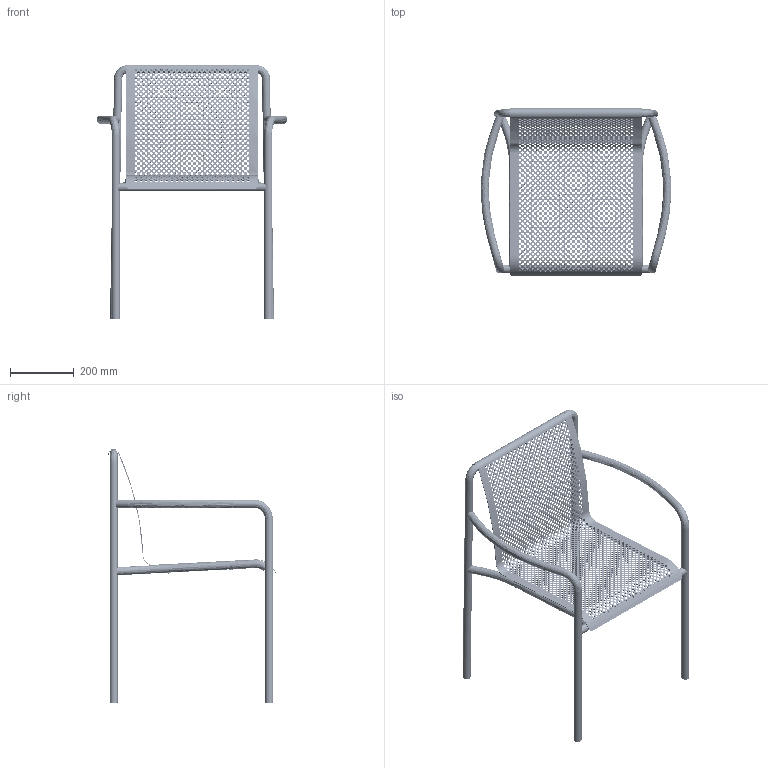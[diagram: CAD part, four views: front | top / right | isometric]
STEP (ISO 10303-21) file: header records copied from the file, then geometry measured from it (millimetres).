
FILE_DESCRIPTION(/* description */ (''),/* implementation_level */ '2;1');
FILE_NAME(/* name */ '241014_Dapple chair w armrests',/* time_stamp */ '2024-10-15T13:17:31+02:00',/* author */ (''),/* organization */ (''),/* preprocessor_version */ 'ST-DEVELOPER v19.2',/* originating_system */ 'Rhino 8.12',/* authorisation */ '');
FILE_SCHEMA (('CONFIG_CONTROL_DESIGN'));
Length unit declared in the file: millimetre
Products named in the file (1): Document
Bounding box: 599 x 528.68 x 800.31 mm (x, y, z)
Volume: 1545208 mm3; surface area: 2134131.4 mm2
Topology: 23 solids, 23 shells, 4930 faces, 14440 edges, 9456 vertices
Faces by surface type: bspline 2657, cylinder 2093, plane 180
Entity records: 435797 total; most frequent: CARTESIAN_POINT 318467, ORIENTED_EDGE 28864, EDGE_CURVE 14432, DIRECTION 11073, B_SPLINE_CURVE_WITH_KNOTS 9954, VERTEX_POINT 9456, EDGE_LOOP 9152, AXIS2_PLACEMENT_3D 6673
